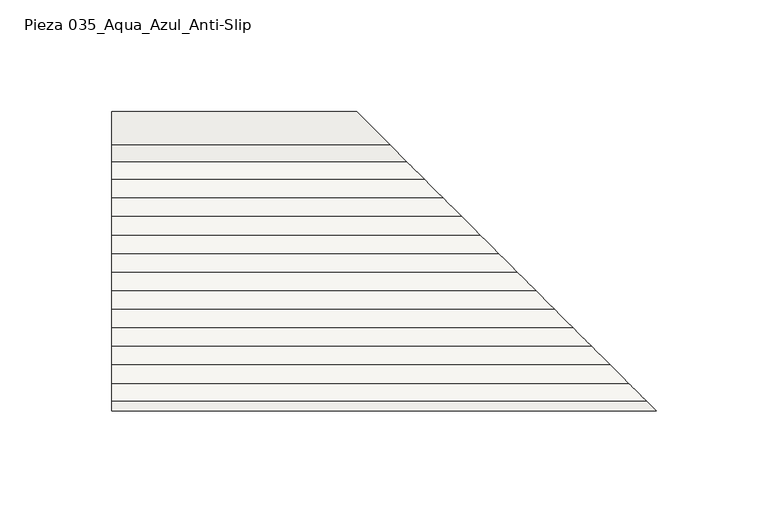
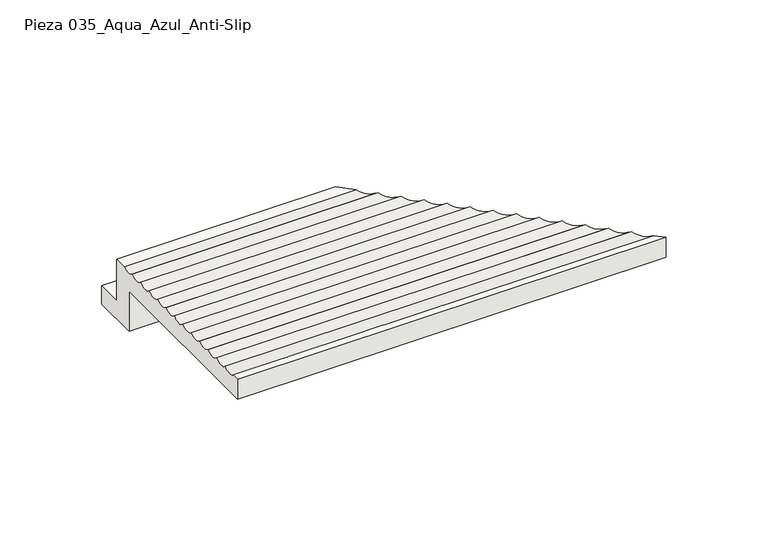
"""IFC4 building model written with IfcOpenShell, lengths in millimetres: slab geometry, ROSA GRES_035 (corte) : Pieza 035_Aqua_Azul_Anti-Slip."""

from ifc_helpers import new_model, si_unit, frame, origin, place, context, project, spatial, polyline, circle_curve, ellipse_curve, source, transform, mapped, element, save
from ifc_brep_helpers import plane_surface, revolved_surface, advanced_brep


def pieza_035_aqua_azul_anti_slip_5118b2d5(model_context):
    return source(origin(), model_context, "Body", "AdvancedBrep", [
        advanced_brep(
        [(0.0, -27.0, 0.0), (0.0, -27.0, 24.0), (0.0, -134.0, 24.0), (0.0, -134.0, 35.9651908), (0.0, -129.5038983, 35.9651908), (0.0, -121.5456903, 36.2871822), (0.0, -113.2424438, 36.2898598), (0.0, -104.9391974, 36.2925375), (0.0, -96.6359509, 36.2952151), (0.0, -88.3327044, 36.2978927), (0.0, -80.029458, 36.3005703), (0.0, -71.7262115, 36.303248), (0.0, -63.4229651, 36.3059256), (0.0, -55.1197186, 36.3086032), (0.0, -46.8164721, 36.3112809), (0.0, -38.5132257, 36.3139585), (0.0, -30.2099792, 36.3166361), (0.0, -22.2513049, 36.0), (0.0, -15.0, 36.0), (0.0, -15.0, 11.0), (0.0, 0.0, 11.0), (0.0, 0.0, 0.0), (109.5, 0.0, 0.0), (136.5, -27.0, 0.0), (109.5, 0.0, 11.0), (124.5, -15.0, 11.0), (124.5, -15.0, 36.0), (131.7513049, -22.2513049, 36.0), (139.7099792, -30.2099792, 36.3166361), (148.0132257, -38.5132257, 36.3139585), (156.3164721, -46.8164721, 36.3112809), (164.6197186, -55.1197186, 36.3086032), (172.9229651, -63.4229651, 36.3059256), (181.2262115, -71.7262115, 36.303248), (189.529458, -80.029458, 36.3005703), (197.8327044, -88.3327044, 36.2978927), (206.1359509, -96.6359509, 36.2952151), (214.4391974, -104.9391974, 36.2925375), (222.7424438, -113.2424438, 36.2898598), (231.0456903, -121.5456903, 36.2871822), (239.0038983, -129.5038983, 35.9651908), (243.5, -134.0, 35.9651908), (243.5, -134.0, 24.0), (136.5, -27.0, 24.0)],
        [
            (0, 1),
            (1, 2),
            (2, 3),
            (3, 4),
            (4, 5, circle_curve(frame((0.0, -125.6986477, 40.4230762), z_axis=(1.0, 0.0, 0.0), x_axis=(0.0, -1.0, 0.0)), 5.8611155)),
            (5, 6, circle_curve(frame((0.0, -117.3954012, 40.4257538), z_axis=(1.0, 0.0, 0.0), x_axis=(0.0, -1.0, 0.0)), 5.8611155)),
            (6, 7, circle_curve(frame((0.0, -109.0921548, 40.4284314), z_axis=(1.0, 0.0, 0.0), x_axis=(0.0, -1.0, 0.0)), 5.8611155)),
            (7, 8, circle_curve(frame((0.0, -100.7889083, 40.4311091), z_axis=(1.0, 0.0, 0.0), x_axis=(0.0, -1.0, 0.0)), 5.8611155)),
            (8, 9, circle_curve(frame((0.0, -92.4856619, 40.4337867), z_axis=(1.0, 0.0, 0.0), x_axis=(0.0, -1.0, 0.0)), 5.8611155)),
            (9, 10, circle_curve(frame((0.0, -84.1824154, 40.4364643), z_axis=(1.0, 0.0, 0.0), x_axis=(0.0, -1.0, 0.0)), 5.8611155)),
            (10, 11, circle_curve(frame((0.0, -75.8791689, 40.439142), z_axis=(1.0, 0.0, 0.0), x_axis=(0.0, -1.0, 0.0)), 5.8611155)),
            (11, 12, circle_curve(frame((0.0, -67.5759225, 40.4418196), z_axis=(1.0, 0.0, 0.0), x_axis=(0.0, -1.0, 0.0)), 5.8611155)),
            (12, 13, circle_curve(frame((0.0, -59.272676, 40.4444972), z_axis=(1.0, 0.0, 0.0), x_axis=(0.0, -1.0, 0.0)), 5.8611155)),
            (13, 14, circle_curve(frame((0.0, -50.9694296, 40.4471749), z_axis=(1.0, 0.0, 0.0), x_axis=(0.0, -1.0, 0.0)), 5.8611155)),
            (14, 15, circle_curve(frame((0.0, -42.6661831, 40.4498525), z_axis=(1.0, 0.0, 0.0), x_axis=(0.0, -1.0, 0.0)), 5.8611155)),
            (15, 16, circle_curve(frame((0.0, -34.3629366, 40.4525301), z_axis=(1.0, 0.0, 0.0), x_axis=(0.0, -1.0, 0.0)), 5.8611155)),
            (16, 17, circle_curve(frame((0.0, -26.0596902, 40.4552078), z_axis=(1.0, 0.0, 0.0), x_axis=(0.0, -1.0, 0.0)), 5.8611155)),
            (17, 18),
            (18, 19),
            (19, 20),
            (20, 21),
            (21, 0),
            (21, 22),
            (22, 23),
            (23, 0),
            (20, 24),
            (24, 22),
            (19, 25),
            (25, 24),
            (18, 26),
            (26, 25),
            (17, 27),
            (27, 26),
            (16, 28),
            (28, 27, ellipse_curve(frame((135.5596902, -26.0596902, 40.4552078), z_axis=(0.7071067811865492, 0.7071067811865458, 0.0), x_axis=(0.7071067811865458, -0.7071067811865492, 0.0)), 8.288869, 5.8611155)),
            (15, 29),
            (29, 28, ellipse_curve(frame((143.8629366, -34.3629366, 40.4525301), z_axis=(0.7071067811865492, 0.7071067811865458, 0.0), x_axis=(0.7071067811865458, -0.7071067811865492, 0.0)), 8.288869, 5.8611155)),
            (14, 30),
            (30, 29, ellipse_curve(frame((152.1661831, -42.6661831, 40.4498525), z_axis=(0.7071067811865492, 0.7071067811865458, 0.0), x_axis=(0.7071067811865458, -0.7071067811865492, 0.0)), 8.288869, 5.8611155)),
            (13, 31),
            (31, 30, ellipse_curve(frame((160.4694295, -50.9694296, 40.4471749), z_axis=(0.7071067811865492, 0.7071067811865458, 0.0), x_axis=(0.7071067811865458, -0.7071067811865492, 0.0)), 8.288869, 5.8611155)),
            (12, 32),
            (32, 31, ellipse_curve(frame((168.772676, -59.272676, 40.4444972), z_axis=(0.7071067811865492, 0.7071067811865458, 0.0), x_axis=(0.7071067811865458, -0.7071067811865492, 0.0)), 8.288869, 5.8611155)),
            (11, 33),
            (33, 32, ellipse_curve(frame((177.0759225, -67.5759225, 40.4418196), z_axis=(0.7071067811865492, 0.7071067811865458, 0.0), x_axis=(0.7071067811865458, -0.7071067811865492, 0.0)), 8.288869, 5.8611155)),
            (10, 34),
            (34, 33, ellipse_curve(frame((185.3791689, -75.8791689, 40.439142), z_axis=(0.7071067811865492, 0.7071067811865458, 0.0), x_axis=(0.7071067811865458, -0.7071067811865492, 0.0)), 8.288869, 5.8611155)),
            (9, 35),
            (35, 34, ellipse_curve(frame((193.6824154, -84.1824154, 40.4364643), z_axis=(0.7071067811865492, 0.7071067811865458, 0.0), x_axis=(0.7071067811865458, -0.7071067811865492, 0.0)), 8.288869, 5.8611155)),
            (8, 36),
            (36, 35, ellipse_curve(frame((201.9856619, -92.4856619, 40.4337867), z_axis=(0.7071067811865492, 0.7071067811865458, 0.0), x_axis=(0.7071067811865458, -0.7071067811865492, 0.0)), 8.288869, 5.8611155)),
            (7, 37),
            (37, 36, ellipse_curve(frame((210.2889083, -100.7889083, 40.4311091), z_axis=(0.7071067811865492, 0.7071067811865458, 0.0), x_axis=(0.7071067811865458, -0.7071067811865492, 0.0)), 8.288869, 5.8611155)),
            (6, 38),
            (38, 37, ellipse_curve(frame((218.5921548, -109.0921548, 40.4284314), z_axis=(0.7071067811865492, 0.7071067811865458, 0.0), x_axis=(0.7071067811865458, -0.7071067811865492, 0.0)), 8.288869, 5.8611155)),
            (5, 39),
            (39, 38, ellipse_curve(frame((226.8954012, -117.3954012, 40.4257538), z_axis=(0.7071067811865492, 0.7071067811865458, 0.0), x_axis=(0.7071067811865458, -0.7071067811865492, 0.0)), 8.288869, 5.8611155)),
            (4, 40),
            (40, 39, ellipse_curve(frame((235.1986477, -125.6986477, 40.4230762), z_axis=(0.7071067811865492, 0.7071067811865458, 0.0), x_axis=(0.7071067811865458, -0.7071067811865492, 0.0)), 8.288869, 5.8611155)),
            (3, 41),
            (41, 40),
            (2, 42),
            (42, 41),
            (1, 43),
            (43, 42),
            (23, 43),
        ],
        [
            plane_surface(frame((0.0, 0.0, 0.0), z_axis=(-1.0, 0.0, 0.0), x_axis=(0.0, 0.0, 1.0))),
            plane_surface(frame((0.0, -27.0, 0.0), z_axis=(0.0, 0.0, -1.0), x_axis=(1.0, 0.0, 0.0))),
            plane_surface(frame((0.0, 0.0, 0.0), z_axis=(0.0, 1.0, 0.0), x_axis=(1.0, 0.0, 0.0))),
            plane_surface(frame((0.0, 0.0, 11.0), z_axis=(0.0, 0.0, 1.0), x_axis=(1.0, 0.0, 0.0))),
            plane_surface(frame((0.0, -15.0, 11.0), z_axis=(0.0, 1.0, 1.6630550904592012e-11), x_axis=(1.0, 0.0, 0.0))),
            plane_surface(frame((0.0, -15.0, 36.0), z_axis=(0.0, 0.0, 1.0), x_axis=(1.0, 0.0, 0.0))),
            revolved_surface(polyline([(141.42080567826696, -31.9208057, 40.4552078), (0.0, -31.9208057, 40.4552078)]), (0.0, -26.0596902, 40.4552078), (1.0, 0.0, 0.0)),
            revolved_surface(polyline([(149.72405207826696, -40.224052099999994, 40.4525301), (0.0, -40.224052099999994, 40.4525301)]), (0.0, -34.3629366, 40.4525301), (1.0, 0.0, 0.0)),
            revolved_surface(polyline([(158.02729857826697, -48.527298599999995, 40.4498525), (0.0, -48.527298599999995, 40.4498525)]), (0.0, -42.6661831, 40.4498525), (1.0, 0.0, 0.0)),
            revolved_surface(polyline([(166.33054497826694, -56.830545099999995, 40.4471749), (0.0, -56.830545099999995, 40.4471749)]), (0.0, -50.9694296, 40.4471749), (1.0, 0.0, 0.0)),
            revolved_surface(polyline([(174.63379147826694, -65.1337915, 40.4444972), (0.0, -65.1337915, 40.4444972)]), (0.0, -59.272676, 40.4444972), (1.0, 0.0, 0.0)),
            revolved_surface(polyline([(182.93703797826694, -73.437038, 40.4418196), (0.0, -73.437038, 40.4418196)]), (0.0, -67.5759225, 40.4418196), (1.0, 0.0, 0.0)),
            revolved_surface(polyline([(191.24028437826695, -81.7402844, 40.439142), (0.0, -81.7402844, 40.439142)]), (0.0, -75.8791689, 40.439142), (1.0, 0.0, 0.0)),
            revolved_surface(polyline([(199.54353087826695, -90.0435309, 40.4364643), (0.0, -90.0435309, 40.4364643)]), (0.0, -84.1824154, 40.4364643), (1.0, 0.0, 0.0)),
            revolved_surface(polyline([(207.84677737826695, -98.3467774, 40.4337867), (0.0, -98.3467774, 40.4337867)]), (0.0, -92.4856619, 40.4337867), (1.0, 0.0, 0.0)),
            revolved_surface(polyline([(216.15002377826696, -106.6500238, 40.4311091), (0.0, -106.6500238, 40.4311091)]), (0.0, -100.7889083, 40.4311091), (1.0, 0.0, 0.0)),
            revolved_surface(polyline([(224.45327027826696, -114.9532703, 40.4284314), (0.0, -114.9532703, 40.4284314)]), (0.0, -109.0921548, 40.4284314), (1.0, 0.0, 0.0)),
            revolved_surface(polyline([(232.75651667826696, -123.25651669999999, 40.4257538), (0.0, -123.25651669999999, 40.4257538)]), (0.0, -117.3954012, 40.4257538), (1.0, 0.0, 0.0)),
            revolved_surface(polyline([(241.05976317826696, -131.5597632, 40.4230762), (0.0, -131.5597632, 40.4230762)]), (0.0, -125.6986477, 40.4230762), (1.0, 0.0, 0.0)),
            plane_surface(frame((0.0, -129.5038983, 35.9651908), z_axis=(0.0, 0.0, 1.0), x_axis=(1.0, 0.0, 0.0))),
            plane_surface(frame((0.0, -134.0, 35.9651908), z_axis=(0.0, -1.0, -1.168190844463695e-11), x_axis=(1.0, 0.0, 0.0))),
            plane_surface(frame((0.0, -134.0, 24.0), z_axis=(0.0, 0.0, -1.0), x_axis=(1.0, 0.0, 0.0))),
            plane_surface(frame((0.0, -27.0, 24.0), z_axis=(0.0, -1.0, 0.0), x_axis=(1.0, 0.0, 0.0))),
            plane_surface(frame((244.0, -134.5, 104.9871832), z_axis=(0.7071067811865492, 0.7071067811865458, 0.0), x_axis=(0.0, 0.0, -1.0))),
        ],
        [
            (0, [[1, 2, 3, 4, 5, 6, 7, 8, 9, 10, 11, 12, 13, 14, 15, 16, 17, 18, 19, 20, 21, 22]]),
            (1, [[23, 24, 25, -22]]),
            (2, [[26, 27, -23, -21]]),
            (3, [[28, 29, -26, -20]]),
            (4, [[30, 31, -28, -19]]),
            (5, [[32, 33, -30, -18]]),
            (6, [[34, 35, -32, -17]]),
            (7, [[36, 37, -34, -16]]),
            (8, [[38, 39, -36, -15]]),
            (9, [[40, 41, -38, -14]]),
            (10, [[42, 43, -40, -13]]),
            (11, [[44, 45, -42, -12]]),
            (12, [[46, 47, -44, -11]]),
            (13, [[48, 49, -46, -10]]),
            (14, [[50, 51, -48, -9]]),
            (15, [[52, 53, -50, -8]]),
            (16, [[54, 55, -52, -7]]),
            (17, [[56, 57, -54, -6]]),
            (18, [[58, 59, -56, -5]]),
            (19, [[60, 61, -58, -4]]),
            (20, [[62, 63, -60, -3]]),
            (21, [[64, 65, -62, -2]]),
            (22, [[-25, 66, -64, -1]]),
            (23, [[-27, -29, -31, -33, -35, -37, -39, -41, -43, -45, -47, -49, -51, -53, -55, -57, -59, -61, -63, -65, -66, -24]]),
        ],
    ),
    ])


if __name__ == "__main__":
    model = new_model("IFC4")
    model_context = context("Model", 3, world=origin())
    ifc_project = project(units=[si_unit("LENGTHUNIT", "METRE", prefix="MILLI")], contexts=[model_context])
    site = spatial("IfcSite", under=ifc_project)
    building = spatial("IfcBuilding", under=site)
    placement = place(None, origin())
    pieza_035_aqua_azul_anti_slip_shape = pieza_035_aqua_azul_anti_slip_5118b2d5(model_context)
    element("IfcSlab", 1, ObjectType="ROSA GRES_035 (corte) : Pieza 035_Aqua_Azul_Anti-Slip", at=placement, inside=building, context=model_context, shape_type="MappedRepresentation", body=[
        mapped(pieza_035_aqua_azul_anti_slip_shape, transform((0.0, 0.0, 0.0), x_axis=(1.0, 0.0, 0.0), y_axis=(0.0, 1.0, 0.0), z_axis=(0.0, 0.0, 1.0))),
    ])
    save(model, "model.ifc")
